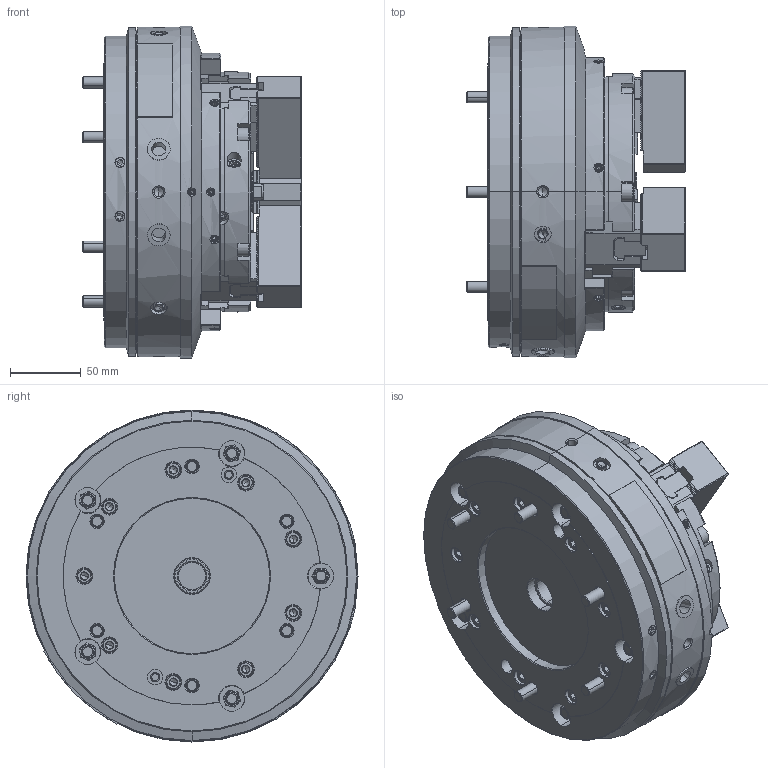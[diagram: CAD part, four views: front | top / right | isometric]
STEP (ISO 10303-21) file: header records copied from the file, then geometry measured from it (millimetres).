
FILE_DESCRIPTION (( 'STEP AP214' ), '1' );
FILE_NAME ('DEV-NRC06-OC.STEP', '2024-10-03T04:41:23', ( '' ), ( '' ), 'SwSTEP 2.0', 'SolidWorks 2022', '' );
FILE_SCHEMA (( 'AUTOMOTIVE_DESIGN' ));
Length unit declared in the file: millimetre
Products named in the file (9): Copy of 0693000002^DEV-NRC06-クミタテ; Copy of 61P413209^DEV-NRC06-クミタテ; Copy of 0030108110^DEV-NRC06-クミタテ; Copy of 61P400822^DEV-NRC06-クミタテ; Copy of 0263001600^DEV-NRC06-クミタテ_円筒用; DEV-NRC06-OC; Copy of 61P302540^DEV-NRC06-クミタテ; Part1^DEV-NRC06-クミタテ; Copy of 0030110030^DEV-NRC06-クミタテ
Assembly tree (23 placements, depth 2):
  DEV-NRC06-OC
    Copy of 61P302540^DEV-NRC06-クミタテ  x3
    Copy of 61P400822^DEV-NRC06-クミタテ  x3
    Copy of 61P413209^DEV-NRC06-クミタテ
    Copy of 0030108110^DEV-NRC06-クミタテ  x6
    Copy of 0030110030^DEV-NRC06-クミタテ  x6
    Copy of 0263001600^DEV-NRC06-クミタテ_円筒用
    Copy of 0693000002^DEV-NRC06-クミタテ  x2
    Part1^DEV-NRC06-クミタテ
Bounding box: 155 x 235 x 235 mm (x, y, z)
Volume: 3744775.5 mm3; surface area: 322305.1 mm2
Topology: 23 solids, 60 shells, 4629 faces, 12597 edges, 8153 vertices
Faces by surface type: plane 2680, cylinder 1053, cone 730, bspline 131, torus 27, sphere 8
Entity records: 119470 total; most frequent: CARTESIAN_POINT 34142, ORIENTED_EDGE 18632, DIRECTION 16065, EDGE_CURVE 9316, LINE 6125, VECTOR 6125, VERTEX_POINT 6050, AXIS2_PLACEMENT_3D 4970
